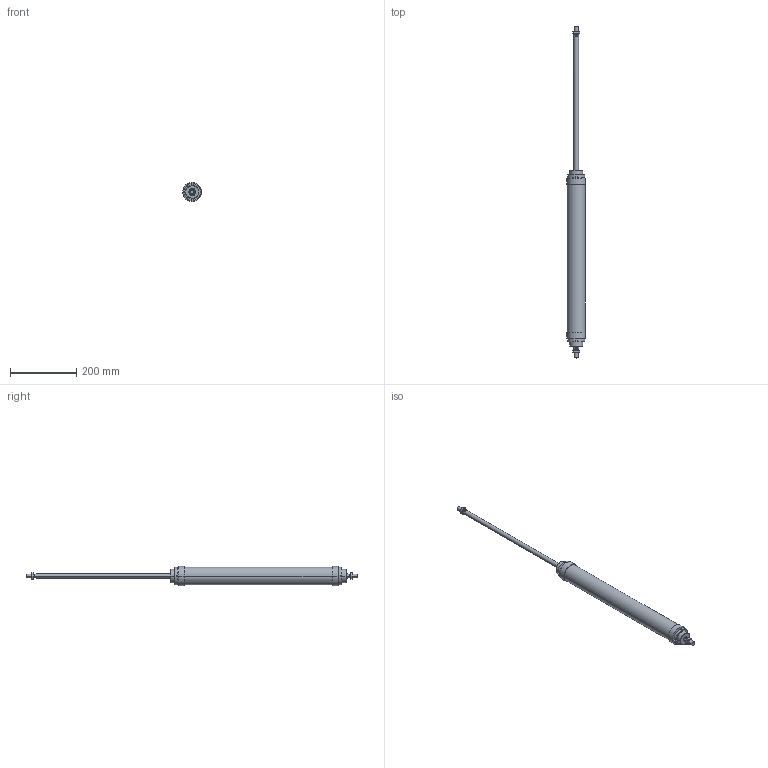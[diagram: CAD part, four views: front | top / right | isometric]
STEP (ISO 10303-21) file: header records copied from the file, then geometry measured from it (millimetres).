
FILE_DESCRIPTION((''),'2;1');
FILE_NAME('I:\DOC-EDP\Lib-3d\1200\CILINDRI\1262\1262_50_0400.stp','2003-04-02T19:17:04',('maffial1'),(''),'Autodesk Inventor (R) 6.0','Autodesk Inventor (R) 6.0','');
FILE_SCHEMA(('AUTOMOTIVE_DESIGN { 1 0 10303 214 1 1 1 1 }'));
Length unit declared in the file: millimetre
Products named in the file (5): 1262_50_0400; S1262_50_400; C1262_50_400; 1200_50_05; 1200_50_06
Assembly tree (6 placements, depth 2):
  1262_50_0400
    S1262_50_400
    C1262_50_400
    1200_50_05  x2
    1200_50_06  x2
Bounding box: 56.6 x 1002 x 57.85 mm (x, y, z)
Volume: 1265284.9 mm3; surface area: 173219.3 mm2
Topology: 6 solids, 6 shells, 182 faces, 424 edges, 264 vertices
Faces by surface type: plane 66, cone 56, cylinder 30, bspline 30
Entity records: 3737 total; most frequent: CARTESIAN_POINT 969, DIRECTION 572, ORIENTED_EDGE 548, EDGE_CURVE 274, AXIS2_PLACEMENT_3D 227, VERTEX_POINT 172, EDGE_LOOP 136, FACE_OUTER_BOUND 120
